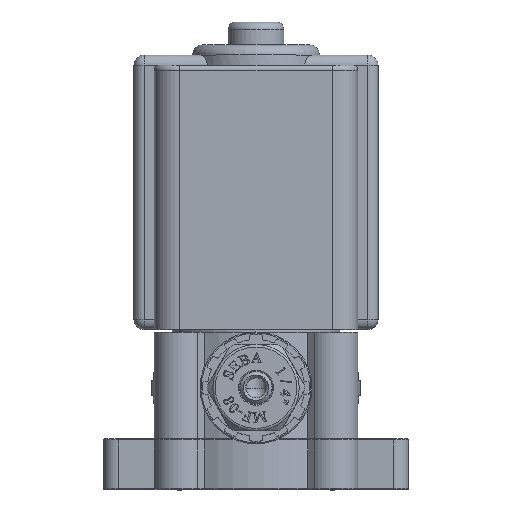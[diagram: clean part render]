
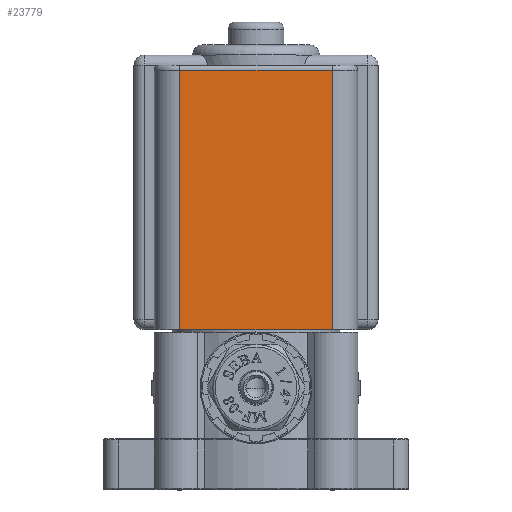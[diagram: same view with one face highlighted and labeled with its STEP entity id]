
A CAD part, top view. The second image highlights one B-rep face of the part: STEP entity #23779.
In plain terms, the highlighted planar face has unit normal (0, 0, 1).
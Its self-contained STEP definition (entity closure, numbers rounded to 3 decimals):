
#2591=LINE($,#50174,#4432);
#2610=LINE($,#50252,#4451);
#2617=LINE($,#50272,#4458);
#2620=LINE($,#50281,#4461);
#4432=VECTOR($,#30359,30.);
#4451=VECTOR($,#30454,51.);
#4458=VECTOR($,#30473,51.);
#4461=VECTOR($,#30486,30.);
#7125=FACE_OUTER_BOUND($,#8644,.T.);
#8644=EDGE_LOOP($,(#21020,#21021,#21022,#21023));
#11678=VERTEX_POINT($,#50164);
#11680=VERTEX_POINT($,#50170);
#11702=VERTEX_POINT($,#50251);
#11709=VERTEX_POINT($,#50271);
#14845=EDGE_CURVE($,#11680,#11678,#2591,.F.);
#14885=EDGE_CURVE($,#11678,#11702,#2610,.T.);
#14895=EDGE_CURVE($,#11709,#11680,#2617,.F.);
#14900=EDGE_CURVE($,#11702,#11709,#2620,.T.);
#21020=ORIENTED_EDGE($,*,*,#14895,.T.);
#21021=ORIENTED_EDGE($,*,*,#14845,.T.);
#21022=ORIENTED_EDGE($,*,*,#14885,.T.);
#21023=ORIENTED_EDGE($,*,*,#14900,.T.);
#22570=PLANE($,#25496);
#23779=ADVANCED_FACE($,(#7125),#22570,.F.);
#25496=AXIS2_PLACEMENT_3D($,#50280,#30484,#30485);
#30359=DIRECTION($,(1.,0.,0.));
#30454=DIRECTION($,(0.,-1.,0.));
#30473=DIRECTION($,(0.,-1.,0.));
#30484=DIRECTION('center_axis',(0.,0.,-1.));
#30485=DIRECTION('ref_axis',(-1.,0.,0.));
#30486=DIRECTION($,(1.,0.,0.));
#50164=CARTESIAN_POINT('',(-15.,91.5,20.));
#50170=CARTESIAN_POINT('',(15.,91.5,20.));
#50174=CARTESIAN_POINT($,(-15.,91.5,20.));
#50251=CARTESIAN_POINT('',(-15.,40.5,20.));
#50252=CARTESIAN_POINT($,(-15.,76.5,20.));
#50271=CARTESIAN_POINT('',(15.,40.5,20.));
#50272=CARTESIAN_POINT($,(15.,76.5,20.));
#50280=CARTESIAN_POINT('Origin',(-20.,92.5,20.));
#50281=CARTESIAN_POINT($,(-15.,40.5,20.));
